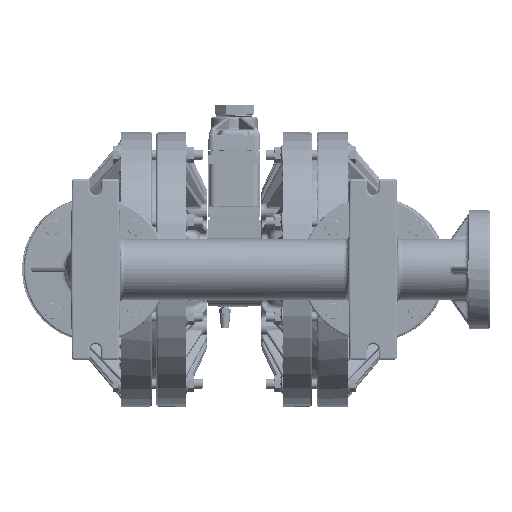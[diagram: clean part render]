
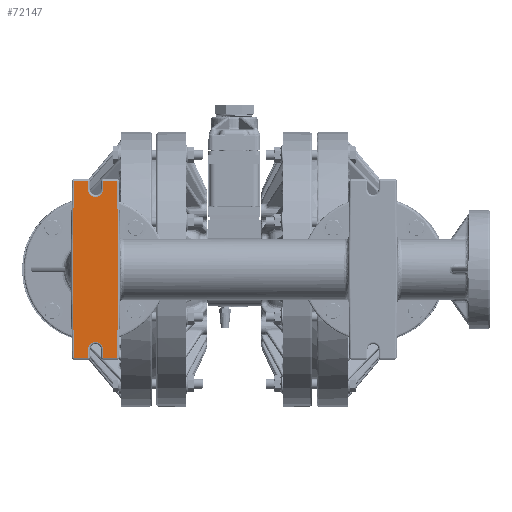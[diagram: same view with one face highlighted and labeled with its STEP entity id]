
A CAD part, front view. The second image highlights one B-rep face of the part: STEP entity #72147.
In plain terms, the highlighted planar face has unit normal (0, -1, 0).
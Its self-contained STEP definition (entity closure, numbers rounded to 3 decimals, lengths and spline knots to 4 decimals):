
#5284 = VECTOR ( 'NONE', #569715, 39.3701 ) ;
#6809 = DIRECTION ( 'NONE',  ( -1., 0., 0. ) ) ;
#21825 = ORIENTED_EDGE ( 'NONE', *, *, #723382, .F. ) ;
#25166 = ORIENTED_EDGE ( 'NONE', *, *, #699865, .F. ) ;
#31159 = VERTEX_POINT ( 'NONE', #719567 ) ;
#62227 = EDGE_CURVE ( 'NONE', #765400, #457917, #892931, .T. ) ;
#63633 = ORIENTED_EDGE ( 'NONE', *, *, #830511, .F. ) ;
#64762 = DIRECTION ( 'NONE',  ( 0., -1., 0. ) ) ;
#72147 = ADVANCED_FACE ( 'NONE', ( #825190 ), #599510, .T. ) ;
#83331 = VECTOR ( 'NONE', #740959, 39.3701 ) ;
#122524 = AXIS2_PLACEMENT_3D ( 'NONE', #313894, #405827, #396746 ) ;
#126672 = VERTEX_POINT ( 'NONE', #561558 ) ;
#127097 = LINE ( 'NONE', #408234, #673823 ) ;
#135304 = VECTOR ( 'NONE', #206684, 39.3701 ) ;
#140648 = DIRECTION ( 'NONE',  ( -1., 0., 0. ) ) ;
#144994 = EDGE_CURVE ( 'NONE', #31159, #273478, #774717, .T. ) ;
#149744 = CARTESIAN_POINT ( 'NONE',  ( -7.38, -15.12, 4.04 ) ) ;
#162962 = VERTEX_POINT ( 'NONE', #503943 ) ;
#169364 = VERTEX_POINT ( 'NONE', #400761 ) ;
#172091 = DIRECTION ( 'NONE',  ( 1., 0., 0. ) ) ;
#174902 = LINE ( 'NONE', #451576, #345163 ) ;
#175026 = CARTESIAN_POINT ( 'NONE',  ( -8.0917, -15.12, 4.45 ) ) ;
#183371 = VERTEX_POINT ( 'NONE', #687103 ) ;
#183837 = DIRECTION ( 'NONE',  ( 0., 0., 1. ) ) ;
#184824 = VECTOR ( 'NONE', #505392, 39.3701 ) ;
#199833 = CARTESIAN_POINT ( 'NONE',  ( -6.62, -15.12, 4.04 ) ) ;
#201079 = EDGE_CURVE ( 'NONE', #391067, #126672, #691236, .T. ) ;
#206684 = DIRECTION ( 'NONE',  ( 0.013, 0., 1. ) ) ;
#207489 = DIRECTION ( 'NONE',  ( -1., 0., 0. ) ) ;
#211774 = ORIENTED_EDGE ( 'NONE', *, *, #144994, .F. ) ;
#214230 = CARTESIAN_POINT ( 'NONE',  ( -5.9083, -15.12, -4.45 ) ) ;
#216997 = CARTESIAN_POINT ( 'NONE',  ( -6.62, -15.12, -4.45 ) ) ;
#217353 = DIRECTION ( 'NONE',  ( 1., 0., 0. ) ) ;
#233665 = VERTEX_POINT ( 'NONE', #570115 ) ;
#248336 = ORIENTED_EDGE ( 'NONE', *, *, #254863, .F. ) ;
#254863 = EDGE_CURVE ( 'NONE', #457917, #826192, #785759, .T. ) ;
#256930 = CARTESIAN_POINT ( 'NONE',  ( -8.0917, -15.12, 4.45 ) ) ;
#257772 = ORIENTED_EDGE ( 'NONE', *, *, #395901, .F. ) ;
#273478 = VERTEX_POINT ( 'NONE', #348412 ) ;
#280854 = VERTEX_POINT ( 'NONE', #199833 ) ;
#298649 = ORIENTED_EDGE ( 'NONE', *, *, #799958, .F. ) ;
#312625 = VECTOR ( 'NONE', #366374, 39.3701 ) ;
#313894 = CARTESIAN_POINT ( 'NONE',  ( -5.75, -15.12, 4.55 ) ) ;
#345163 = VECTOR ( 'NONE', #746252, 39.3701 ) ;
#348412 = CARTESIAN_POINT ( 'NONE',  ( -6.62, -15.12, -4.04 ) ) ;
#366374 = DIRECTION ( 'NONE',  ( 0., 0., -1. ) ) ;
#368981 = ORIENTED_EDGE ( 'NONE', *, *, #62227, .F. ) ;
#376685 = CIRCLE ( 'NONE', #406342, 0.38 ) ;
#376990 = VECTOR ( 'NONE', #6809, 39.3701 ) ;
#382762 = CARTESIAN_POINT ( 'NONE',  ( -7.38, -15.12, -4.04 ) ) ;
#388707 = CARTESIAN_POINT ( 'NONE',  ( -6.62, -15.12, 4.45 ) ) ;
#391067 = VERTEX_POINT ( 'NONE', #382762 ) ;
#395901 = EDGE_CURVE ( 'NONE', #162962, #765400, #773484, .T. ) ;
#396746 = DIRECTION ( 'NONE',  ( 0., 0., -1. ) ) ;
#400761 = CARTESIAN_POINT ( 'NONE',  ( -5.9083, -15.12, -4.45 ) ) ;
#405827 = DIRECTION ( 'NONE',  ( 0., -1., 0. ) ) ;
#406342 = AXIS2_PLACEMENT_3D ( 'NONE', #760692, #64762, #207489 ) ;
#408234 = CARTESIAN_POINT ( 'NONE',  ( -7.38, -15.12, -4.45 ) ) ;
#410701 = CARTESIAN_POINT ( 'NONE',  ( -7.38, -15.12, 4.45 ) ) ;
#428527 = CIRCLE ( 'NONE', #546271, 0.38 ) ;
#439914 = LINE ( 'NONE', #214230, #376990 ) ;
#451576 = CARTESIAN_POINT ( 'NONE',  ( -8.0917, -15.12, -4.45 ) ) ;
#457917 = VERTEX_POINT ( 'NONE', #410701 ) ;
#459628 = ORIENTED_EDGE ( 'NONE', *, *, #633236, .F. ) ;
#459807 = CARTESIAN_POINT ( 'NONE',  ( -8.0917, -15.12, -4.45 ) ) ;
#495762 = VECTOR ( 'NONE', #172091, 39.3701 ) ;
#498179 = DIRECTION ( 'NONE',  ( 0., 0., 1. ) ) ;
#500122 = CARTESIAN_POINT ( 'NONE',  ( -7.38, -15.12, 4.45 ) ) ;
#503943 = CARTESIAN_POINT ( 'NONE',  ( -8.15, -15.12, 0. ) ) ;
#505392 = DIRECTION ( 'NONE',  ( 0., 0., -1. ) ) ;
#506939 = VERTEX_POINT ( 'NONE', #459807 ) ;
#525567 = DIRECTION ( 'NONE',  ( 0.013, 0., -1. ) ) ;
#534139 = CARTESIAN_POINT ( 'NONE',  ( -6.62, -15.12, 4.04 ) ) ;
#536426 = EDGE_LOOP ( 'NONE', ( #63633, #25166, #459628, #801054, #872090, #248336, #368981, #257772, #819364, #298649, #537669, #713584, #211774, #21825 ) ) ;
#536622 = EDGE_CURVE ( 'NONE', #273478, #391067, #428527, .T. ) ;
#537669 = ORIENTED_EDGE ( 'NONE', *, *, #201079, .F. ) ;
#546271 = AXIS2_PLACEMENT_3D ( 'NONE', #567635, #848775, #217353 ) ;
#561558 = CARTESIAN_POINT ( 'NONE',  ( -7.38, -15.12, -4.45 ) ) ;
#567635 = CARTESIAN_POINT ( 'NONE',  ( -7., -15.12, -4.04 ) ) ;
#569715 = DIRECTION ( 'NONE',  ( -0.013, 0., -1. ) ) ;
#570115 = CARTESIAN_POINT ( 'NONE',  ( -6.62, -15.12, 4.45 ) ) ;
#583702 = EDGE_CURVE ( 'NONE', #280854, #233665, #888987, .T. ) ;
#585072 = VECTOR ( 'NONE', #498179, 39.3701 ) ;
#599510 = PLANE ( 'NONE',  #122524 ) ;
#620794 = VECTOR ( 'NONE', #525567, 39.3701 ) ;
#627261 = EDGE_CURVE ( 'NONE', #506939, #162962, #174902, .T. ) ;
#633236 = EDGE_CURVE ( 'NONE', #233665, #183371, #738946, .T. ) ;
#634378 = EDGE_CURVE ( 'NONE', #826192, #280854, #376685, .T. ) ;
#673823 = VECTOR ( 'NONE', #140648, 39.3701 ) ;
#687103 = CARTESIAN_POINT ( 'NONE',  ( -5.9083, -15.12, 4.45 ) ) ;
#691236 = LINE ( 'NONE', #791073, #184824 ) ;
#699865 = EDGE_CURVE ( 'NONE', #183371, #844336, #880372, .T. ) ;
#713584 = ORIENTED_EDGE ( 'NONE', *, *, #536622, .F. ) ;
#719567 = CARTESIAN_POINT ( 'NONE',  ( -6.62, -15.12, -4.45 ) ) ;
#723382 = EDGE_CURVE ( 'NONE', #169364, #31159, #439914, .T. ) ;
#738946 = LINE ( 'NONE', #388707, #495762 ) ;
#740959 = DIRECTION ( 'NONE',  ( 1., 0., 0. ) ) ;
#742865 = CARTESIAN_POINT ( 'NONE',  ( -5.85, -15.12, 0. ) ) ;
#746252 = DIRECTION ( 'NONE',  ( -0.013, 0., 1. ) ) ;
#760692 = CARTESIAN_POINT ( 'NONE',  ( -7., -15.12, 4.04 ) ) ;
#765400 = VERTEX_POINT ( 'NONE', #175026 ) ;
#773484 = LINE ( 'NONE', #838126, #135304 ) ;
#774717 = LINE ( 'NONE', #216997, #585072 ) ;
#781772 = LINE ( 'NONE', #850893, #5284 ) ;
#785759 = LINE ( 'NONE', #500122, #312625 ) ;
#791073 = CARTESIAN_POINT ( 'NONE',  ( -7.38, -15.12, -4.04 ) ) ;
#791679 = VECTOR ( 'NONE', #183837, 39.3701 ) ;
#799958 = EDGE_CURVE ( 'NONE', #126672, #506939, #127097, .T. ) ;
#801054 = ORIENTED_EDGE ( 'NONE', *, *, #583702, .F. ) ;
#819364 = ORIENTED_EDGE ( 'NONE', *, *, #627261, .F. ) ;
#825190 = FACE_OUTER_BOUND ( 'NONE', #536426, .T. ) ;
#826192 = VERTEX_POINT ( 'NONE', #149744 ) ;
#830511 = EDGE_CURVE ( 'NONE', #844336, #169364, #781772, .T. ) ;
#838126 = CARTESIAN_POINT ( 'NONE',  ( -8.15, -15.12, 0. ) ) ;
#844336 = VERTEX_POINT ( 'NONE', #742865 ) ;
#848775 = DIRECTION ( 'NONE',  ( 0., -1., 0. ) ) ;
#850893 = CARTESIAN_POINT ( 'NONE',  ( -5.85, -15.12, 0. ) ) ;
#872090 = ORIENTED_EDGE ( 'NONE', *, *, #634378, .F. ) ;
#875867 = CARTESIAN_POINT ( 'NONE',  ( -5.9083, -15.12, 4.45 ) ) ;
#880372 = LINE ( 'NONE', #875867, #620794 ) ;
#888987 = LINE ( 'NONE', #534139, #791679 ) ;
#892931 = LINE ( 'NONE', #256930, #83331 ) ;
